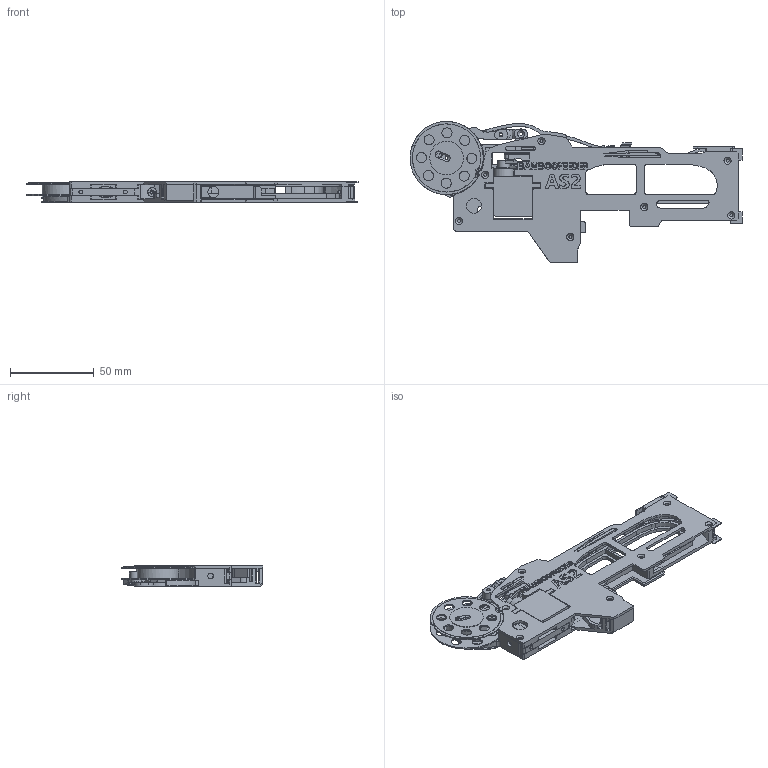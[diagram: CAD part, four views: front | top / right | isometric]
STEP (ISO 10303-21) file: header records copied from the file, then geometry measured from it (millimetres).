
FILE_DESCRIPTION (( 'STEP AP203' ), '1' );
FILE_NAME ('PPBF-AS2-08-V1.0-ASM01.STEP', '2026-03-18T04:39:37', ( '' ), ( '' ), 'SwSTEP 2.0', 'SolidWorks 2020', '' );
FILE_SCHEMA (( 'CONFIG_CONTROL_DESIGN' ));
Length unit declared in the file: millimetre
Products named in the file (17): PPBF-AS2-TopSpring-V1.0; PPBF-AS2-Cover_08-V1.0; PPBF-AS2-HolderTnut_08-V1.0; PPBF-AS2-Spool_08-V1.0; PPBF-AS2-SpoolPawlPullrodConnector-V1.0; PPBF-AS2-SpoolRing_08-V1.0; Servo-SG90; PPBF-AS2-SpoolGear_08-V1.0; PPBF-AS2-SpoolPawlPullrod-V1.0; PPBF-AS2-08-V1.0-ASM01; PPBF-AS2-SpoolWasher-V1.0; PPBF-AS2-LabelCard_08-V1.0; PPBF-AS2-Pushrod_08-V1.0; PPBF-AS2-Base_08-V1.0; PPBF-AS2-ServoAdvancer-V1.0; PPBF-AS2-TopClampingPlate_08-V1.0; ServoArm_Cut
Assembly tree (16 placements, depth 2):
  PPBF-AS2-08-V1.0-ASM01
    PPBF-AS2-Base_08-V1.0
    PPBF-AS2-Cover_08-V1.0
    PPBF-AS2-Spool_08-V1.0
    PPBF-AS2-SpoolGear_08-V1.0
    PPBF-AS2-SpoolWasher-V1.0
    PPBF-AS2-SpoolRing_08-V1.0
    PPBF-AS2-Pushrod_08-V1.0
    PPBF-AS2-ServoAdvancer-V1.0
    ServoArm_Cut
    Servo-SG90
    PPBF-AS2-SpoolPawlPullrod-V1.0
    PPBF-AS2-SpoolPawlPullrodConnector-V1.0
    PPBF-AS2-TopSpring-V1.0
    PPBF-AS2-HolderTnut_08-V1.0
    PPBF-AS2-TopClampingPlate_08-V1.0
    PPBF-AS2-LabelCard_08-V1.0
Bounding box: 197.71 x 84.1 x 12 mm (x, y, z)
Volume: 50882.3 mm3; surface area: 60660.6 mm2
Topology: 17 solids, 17 shells, 2071 faces, 5788 edges, 3796 vertices
Faces by surface type: plane 1142, cylinder 697, bspline 109, cone 98, torus 20, sphere 5
Full cylindrical faces by diameter (mm): 1 x3, 1.75 x1, 1.8 x3, 1.85 x11, 1.9 x1, 2 x1, 2.2 x6, 2.25 x1, 2.3 x8, 2.4 x2, 3.5 x2, 3.9 x1, 4.1 x1, 4.5 x1, 5 x2, 5.2 x1, 5.3 x1, 6 x16, 6.6 x1, 6.85 x1, 7 x1, 7.2 x1, 9 x1, 12 x1, 12.838 x1, 16.038 x1, 16.8 x1, 19.9 x1, 20 x1, 24.5 x1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
Entity records: 74697 total; most frequent: CARTESIAN_POINT 19786, ORIENTED_EDGE 11300, DIRECTION 10714, EDGE_CURVE 5650, VERTEX_POINT 3763, LINE 3710, VECTOR 3710, AXIS2_PLACEMENT_3D 3502
